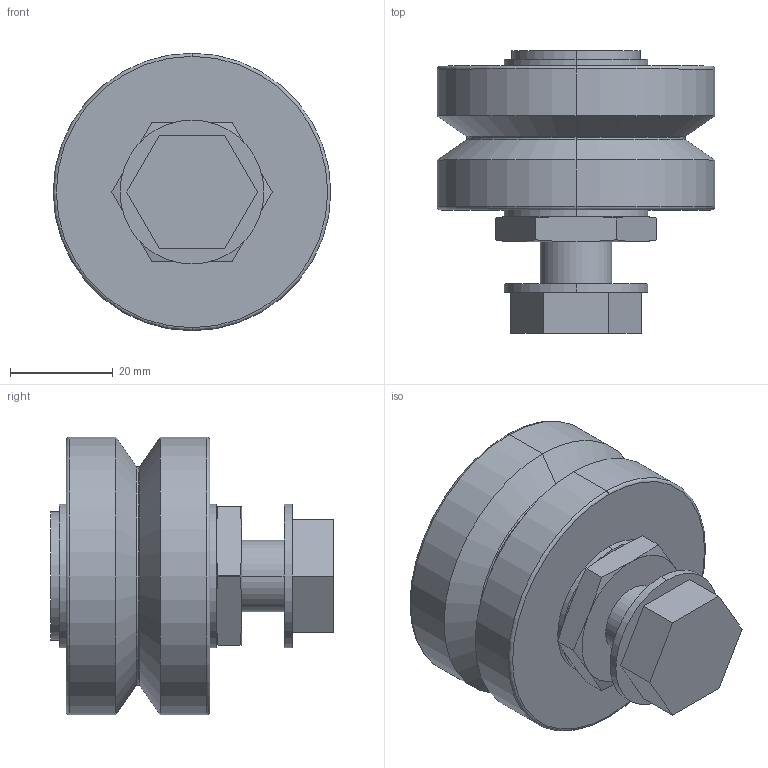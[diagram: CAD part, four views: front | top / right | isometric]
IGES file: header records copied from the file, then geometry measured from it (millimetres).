
Start section: 3D InterOp IGES (Version 21 0 1), Spatial Corp. Copyright (c) 1999-2007.
Global section: file name: RSFJ54CNS.igs; native system: Spatial Corp.; preprocessor: 3D InterOp GENERIC/IGES 3.0; author: Noname; organization: Noname; date: 20220627.163425; units: millimetre
Bounding box: 54 x 55 x 54 mm (x, y, z)
Surface area: 22958 mm2 (no closed solid volume)
Topology: 0 solids, 0 shells, 69 faces, 344 edges, 344 vertices
Faces by surface type: revolution 40, extrusion 29
